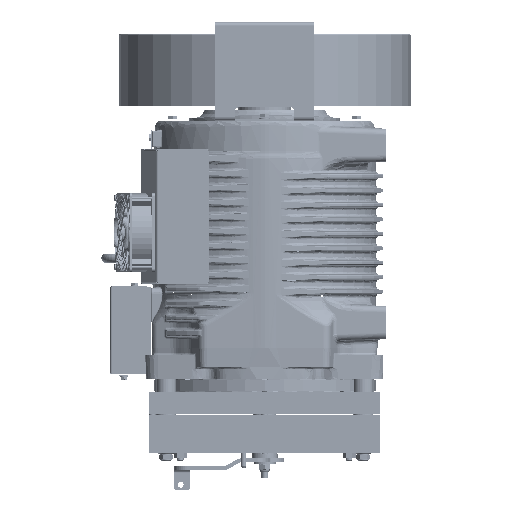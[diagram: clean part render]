
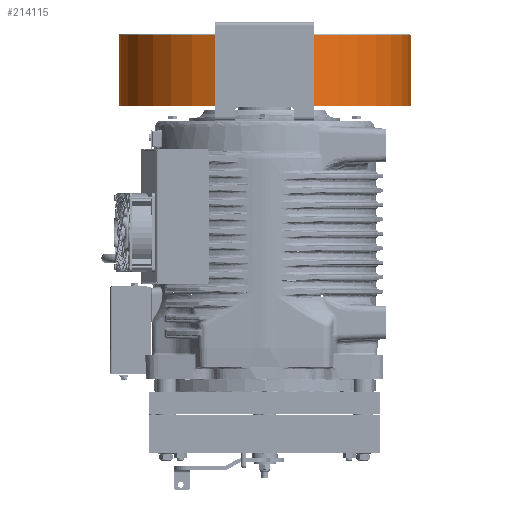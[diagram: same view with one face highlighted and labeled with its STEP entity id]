
A CAD part, left-side view. The second image highlights one B-rep face of the part: STEP entity #214115.
In plain terms, the highlighted cylindrical face has radius 222 mm (diameter 444 mm), a partial arc.
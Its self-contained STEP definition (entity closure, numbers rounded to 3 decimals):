
#203646=CARTESIAN_POINT('',(0.,0.,-54.));
#203647=DIRECTION('',(0.,0.,1.));
#203648=DIRECTION('',(0.,-1.,0.));
#203649=AXIS2_PLACEMENT_3D('',#203646,#203647,#203648);
#203664=DIRECTION('',(0.,0.,1.));
#203665=VECTOR('',#203664,108.);
#203666=CARTESIAN_POINT('',(0.,222.,-54.));
#203667=LINE('',#203666,#203665);
#203668=DIRECTION('',(0.,0.,1.));
#203669=VECTOR('',#203668,108.);
#203670=CARTESIAN_POINT('',(0.,-222.,-54.));
#203671=LINE('',#203670,#203669);
#203672=CARTESIAN_POINT('',(0.,0.,54.));
#203673=DIRECTION('',(0.,0.,-1.));
#203674=DIRECTION('',(0.,1.,0.));
#203675=AXIS2_PLACEMENT_3D('',#203672,#203673,#203674);
#212458=CARTESIAN_POINT('',(0.,-222.,-54.));
#212459=VERTEX_POINT('',#212458);
#212460=CARTESIAN_POINT('',(0.,222.,-54.));
#212461=VERTEX_POINT('',#212460);
#212462=CARTESIAN_POINT('',(0.,222.,54.));
#212463=VERTEX_POINT('',#212462);
#212464=CARTESIAN_POINT('',(0.,-222.,54.));
#212465=VERTEX_POINT('',#212464);
#214103=CARTESIAN_POINT('',(0.,0.,0.));
#214104=DIRECTION('',(0.,0.,1.));
#214105=DIRECTION('',(0.,1.,0.));
#214106=AXIS2_PLACEMENT_3D('',#214103,#214104,#214105);
#214107=CYLINDRICAL_SURFACE('',#214106,222.);
#214108=ORIENTED_EDGE('',*,*,#214068,.F.);
#214109=ORIENTED_EDGE('',*,*,#214098,.T.);
#214111=ORIENTED_EDGE('',*,*,#214110,.F.);
#214112=ORIENTED_EDGE('',*,*,#214094,.F.);
#214113=EDGE_LOOP('',(#214108,#214109,#214111,#214112));
#214114=FACE_OUTER_BOUND('',#214113,.F.);
#214115=ADVANCED_FACE('',(#214114),#214107,.T.);
#203650=CIRCLE('',#203649,222.);
#203676=CIRCLE('',#203675,222.);
#214068=EDGE_CURVE('',#212459,#212461,#203650,.T.);
#214094=EDGE_CURVE('',#212461,#212463,#203667,.T.);
#214098=EDGE_CURVE('',#212459,#212465,#203671,.T.);
#214110=EDGE_CURVE('',#212463,#212465,#203676,.T.);
